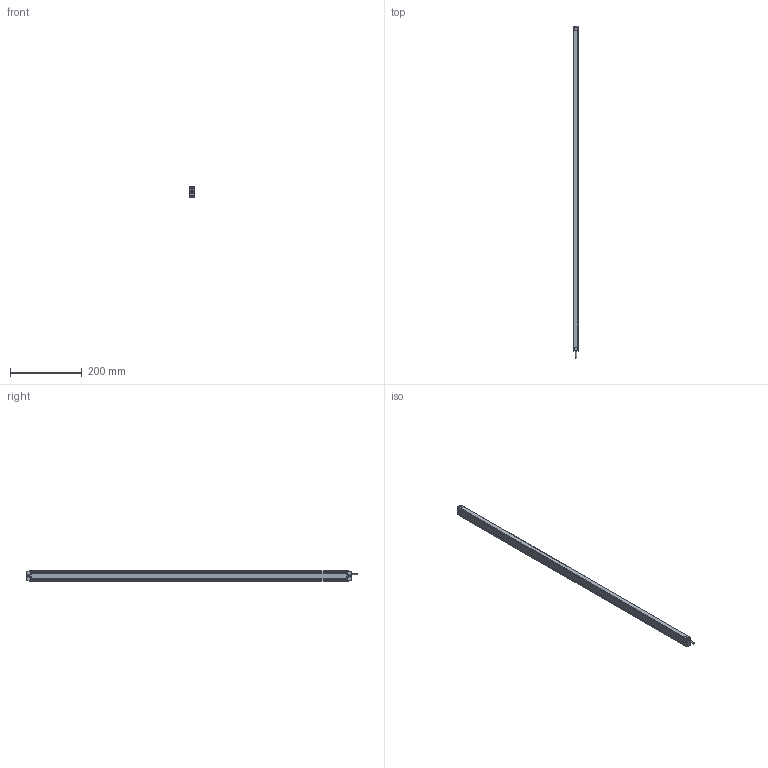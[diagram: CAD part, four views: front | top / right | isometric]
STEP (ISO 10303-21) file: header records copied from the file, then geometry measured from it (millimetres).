
FILE_DESCRIPTION((''),'2;1');
FILE_NAME('EB13-0320_ASM','2021-07-16T09:32:05',('18720616900'),(''),'CREO PARAMETRIC BY PTC INC, 2019010','CREO PARAMETRIC BY PTC INC, 2019010','');
FILE_SCHEMA(('CONFIG_CONTROL_DESIGN'));
Products named in the file (7): EB1300; 000; 0002; 0004; EB13-0320_ASM
Assembly tree (9 placements, depth 2):
  EB13-0320_ASM
    EB1300
    000
    0002
    000
    0004  x4
    000
Bounding box: 13 x 922.4 x 28 mm (x, y, z)
Surface area: 117436.6 mm2
Topology: 9 solids, 27 shells, 1032 faces, 3520 edges, 2523 vertices
Faces by surface type: cylinder 544, plane 295, bspline 118, torus 40, sphere 31, cone 4
Entity records: 52594 total; most frequent: CARTESIAN_POINT 37957, ORIENTED_EDGE 3370, DIRECTION 2501, EDGE_CURVE 1685, VERTEX_POINT 1150, AXIS2_PLACEMENT_3D 849, VECTOR 803, LINE 803
